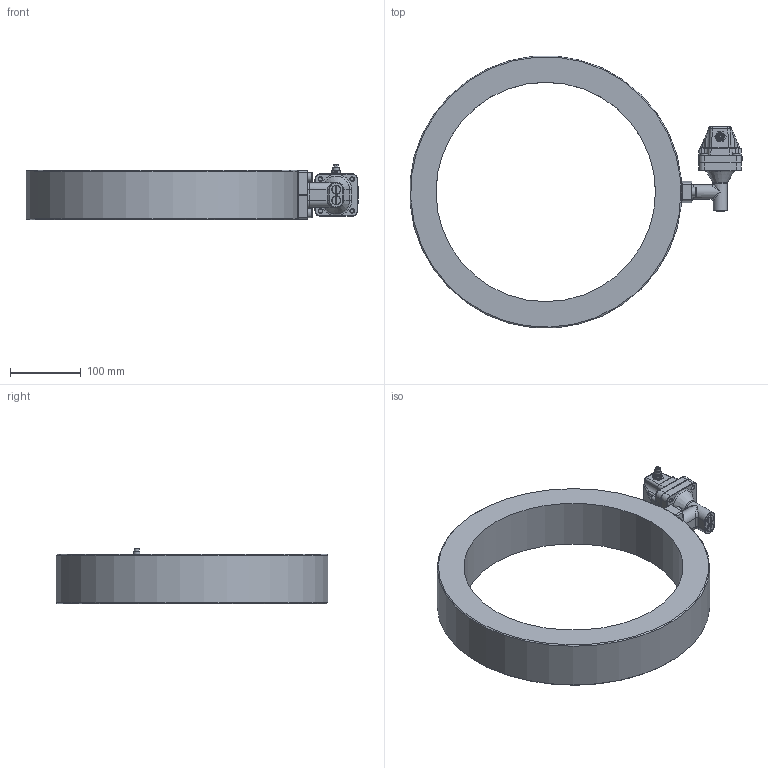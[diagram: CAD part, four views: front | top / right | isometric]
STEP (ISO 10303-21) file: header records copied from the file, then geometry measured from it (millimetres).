
FILE_DESCRIPTION(/* description */ ('Alibre Inc.'),/* implementation_level */ '2;1');
FILE_NAME(/* name */ 'export0',/* time_stamp */ '2012-11-14T15:46:44+01:00',/* author */ (''),/* organization */ (''),/* preprocessor_version */ 'ST-DEVELOPER v14',/* originating_system */ 'Alibre',/* authorisation */ '');
FILE_SCHEMA (('CONFIG_CONTROL_DESIGN'));
Length unit declared in the file: centimetre
Products named in the file (9): ID_1; ID_2; ID_3; ID_4; ID_5; ID_6
Bounding box: 469.02 x 383.79 x 78.5 mm (x, y, z)
Volume: 3032476.5 mm3; surface area: 297028.9 mm2
Topology: 13 solids, 14 shells, 843 faces, 1841 edges, 1062 vertices
Faces by surface type: plane 268, cylinder 261, bspline 132, cone 92, torus 52, sphere 38
Full cylindrical faces by diameter (mm): 0.75 x5, 3.198 x4, 6 x16, 6.2 x1, 6.4 x4, 6.7 x1, 8 x4, 8.5 x2, 8.7 x2, 8.9 x1, 9.6 x4, 10 x4, 11 x4, 11.75 x2, 12 x2, 13 x2, 14 x2, 17.2 x2, 21.1 x2, 32 x1, 47 x1, 310 x1
Entity records: 45158 total; most frequent: CARTESIAN_POINT 29412, ORIENTED_EDGE 2974, DIRECTION 2907, EDGE_CURVE 1487, AXIS2_PLACEMENT_3D 1307, VERTEX_POINT 911, EDGE_LOOP 894, FACE_BOUND 894
